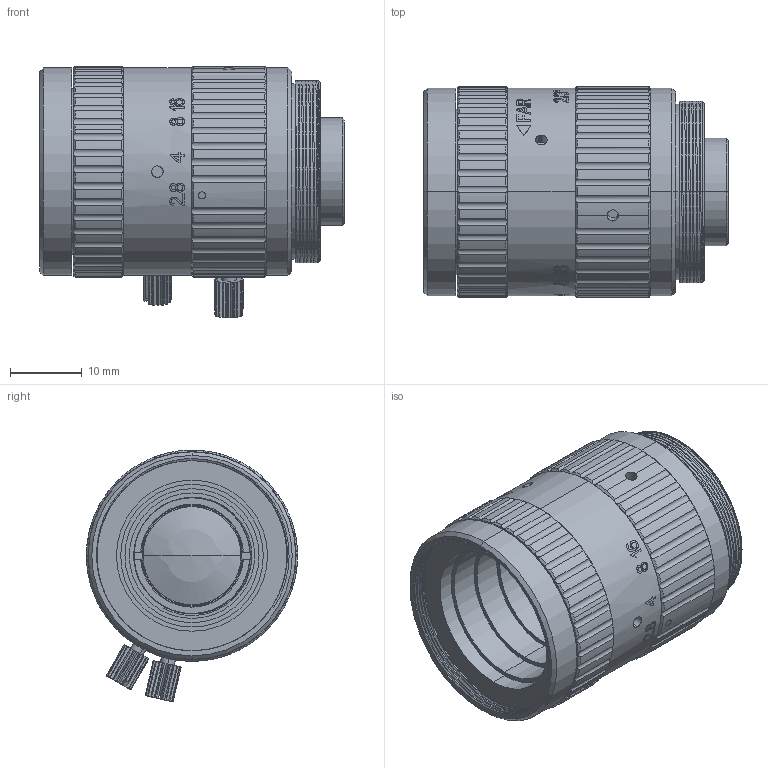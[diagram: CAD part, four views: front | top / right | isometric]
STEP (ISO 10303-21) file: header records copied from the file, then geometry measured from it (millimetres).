
FILE_DESCRIPTION (( 'STEP AP203' ), '1' );
FILE_NAME ('25mm蚾饜极.STEP', '2022-08-16T03:25:08', ( '' ), ( '' ), 'SwSTEP 2.0', 'SolidWorks 2020', '' );
FILE_SCHEMA (( 'CONFIG_CONTROL_DESIGN' ));
Length unit declared in the file: millimetre
Products named in the file (20): 25mm翋噩芠; 25mm嫖擊遠; 珔え蚾饜极.STEP; G1G2隔圈; ____.STEP; 珔え蚾饜极; G8; 絳隊; 后压圈; 25mm擄蝴遠; 蹟隊; 25mm蚾饜极; 25mmヶ噩芠; 嫖擊絳隊; G1; 25mm蟀諉釱; ǰѹȦ; 絳杶; __8.2____.STEP; 2瘍脣种
Assembly tree (24 placements, depth 4):
  25mm蚾饜极
    25mmヶ噩芠
    珔え蚾饜极  x2
      珔え蚾饜极.STEP
        __8.2____.STEP
        ____.STEP  x2
    25mm嫖擊遠
    25mm擄蝴遠
    25mm蟀諉釱
    25mm翋噩芠
    嫖擊絳隊
    絳隊
    絳杶
    蹟隊  x3
    ǰѹȦ
    G1G2隔圈
    后压圈
    G1
    G8
    2瘍脣种  x2
Bounding box: 42.57 x 29.5 x 35.18 mm (x, y, z)
Volume: 17398.2 mm3; surface area: 26029.7 mm2
Topology: 27 solids, 27 shells, 1692 faces, 4295 edges, 2763 vertices
Faces by surface type: cylinder 711, plane 436, cone 287, bspline 250, sphere 8
Entity records: 82906 total; most frequent: CARTESIAN_POINT 46408, ORIENTED_EDGE 7802, DIRECTION 6284, EDGE_CURVE 3901, AXIS2_PLACEMENT_3D 2532, VERTEX_POINT 2507, EDGE_LOOP 1710, ADVANCED_FACE 1539
